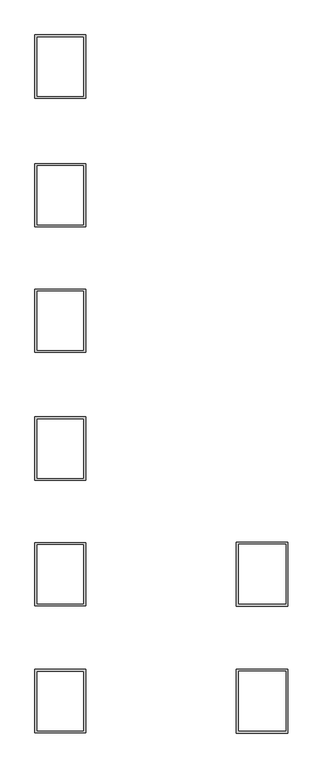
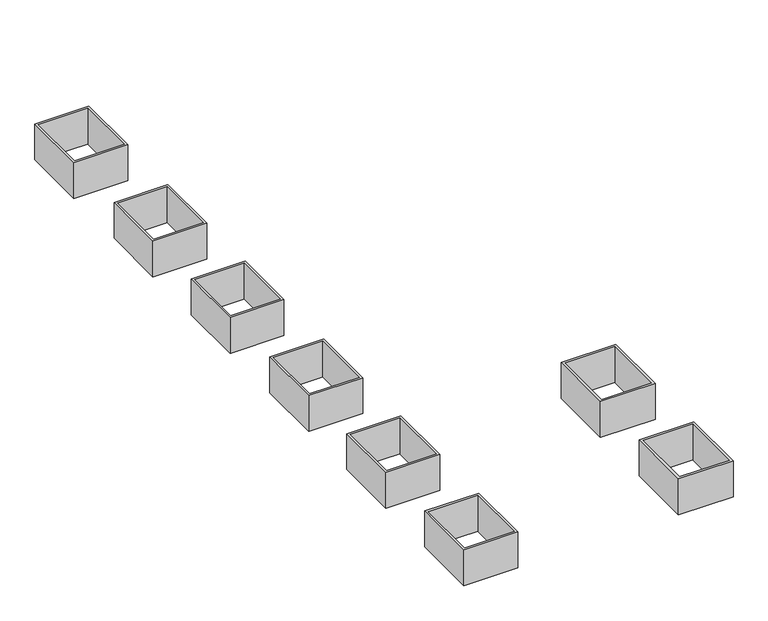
"""IFC4 building model written with IfcOpenShell, lengths in millimetres: proxy geometry, Modèles génériques 2 : Modèles génériques 2."""

from ifc_helpers import new_model, si_unit, origin, place, context, project, spatial, faceted_brep, source, transform, mapped, element, save


def generic_models_4b47ab79(model_context):
    return source(origin(), model_context, "Body", "Brep", [
        faceted_brep([(-32669.0462334, 1622.177026, 3953.3082742), (-32669.0462334, 3122.177026, 3953.3082742), (-33869.0462334, 3122.177026, 3953.3082742), (-33869.0462334, 1622.177026, 3953.3082742), (-32719.0462334, 1672.177026, 3953.3082742), (-33819.0462334, 1672.177026, 3953.3082742), (-33819.0462334, 3072.177026, 3953.3082742), (-32719.0462334, 3072.177026, 3953.3082742), (-32669.0462334, 1622.177026, 3110.0), (-33869.0462334, 1622.177026, 3110.0), (-33869.0462334, 3122.177026, 3110.0), (-32669.0462334, 3122.177026, 3110.0), (-32719.0462334, 1672.177026, 3110.0), (-32719.0462334, 3072.177026, 3110.0), (-33819.0462334, 3072.177026, 3110.0), (-33819.0462334, 1672.177026, 3110.0), (-32669.0462334, 1622.177026, 3150.0), (-32669.0462334, 3122.177026, 3150.0), (-33869.0462334, 3122.177026, 3150.0), (-33869.0462334, 1622.177026, 3150.0)], [[[0, 1, 2, 3], [4, 5, 6, 7]], [[8, 9, 10, 11], [12, 13, 14, 15]], [[5, 4, 12, 15]], [[6, 5, 15, 14]], [[7, 6, 14, 13]], [[4, 7, 13, 12]], [[1, 0, 16, 8, 11, 17]], [[2, 1, 17, 11, 10, 18]], [[3, 2, 18, 10, 9, 19]], [[0, 3, 19, 9, 8, 16]]]),
        faceted_brep([(-32669.0462334, -1347.3571147, 3953.3082742), (-32669.0462334, 152.6428853, 3953.3082742), (-33869.0462334, 152.6428853, 3953.3082742), (-33869.0462334, -1347.3571147, 3953.3082742), (-32719.0462334, -1297.3571147, 3953.3082742), (-33819.0462334, -1297.3571147, 3953.3082742), (-33819.0462334, 102.6428853, 3953.3082742), (-32719.0462334, 102.6428853, 3953.3082742), (-32669.0462334, -1347.3571147, 3110.0), (-33869.0462334, -1347.3571147, 3110.0), (-33869.0462334, 152.6428853, 3110.0), (-32669.0462334, 152.6428853, 3110.0), (-32719.0462334, -1297.3571147, 3110.0), (-32719.0462334, 102.6428853, 3110.0), (-33819.0462334, 102.6428853, 3110.0), (-33819.0462334, -1297.3571147, 3110.0), (-32669.0462334, -1347.3571147, 3150.0), (-32669.0462334, 152.6428853, 3150.0), (-33869.0462334, 152.6428853, 3150.0), (-33869.0462334, -1347.3571147, 3150.0)], [[[0, 1, 2, 3], [4, 5, 6, 7]], [[8, 9, 10, 11], [12, 13, 14, 15]], [[5, 4, 12, 15]], [[6, 5, 15, 14]], [[7, 6, 14, 13]], [[4, 7, 13, 12]], [[1, 0, 16, 8, 11, 17]], [[2, 1, 17, 11, 10, 18]], [[3, 2, 18, 10, 9, 19]], [[0, 3, 19, 9, 8, 16]]]),
        faceted_brep([(-32669.0462334, -4376.8912553, 3953.3082742), (-32669.0462334, -2876.8912553, 3953.3082742), (-33869.0462334, -2876.8912553, 3953.3082742), (-33869.0462334, -4376.8912553, 3953.3082742), (-32719.0462334, -4326.8912553, 3953.3082742), (-33819.0462334, -4326.8912553, 3953.3082742), (-33819.0462334, -2926.8912553, 3953.3082742), (-32719.0462334, -2926.8912553, 3953.3082742), (-32669.0462334, -4376.8912553, 3110.0), (-33869.0462334, -4376.8912553, 3110.0), (-33869.0462334, -2876.8912553, 3110.0), (-32669.0462334, -2876.8912553, 3110.0), (-32719.0462334, -4326.8912553, 3110.0), (-32719.0462334, -2926.8912553, 3110.0), (-33819.0462334, -2926.8912553, 3110.0), (-33819.0462334, -4326.8912553, 3110.0)], [[[0, 1, 2, 3], [4, 5, 6, 7]], [[8, 9, 10, 11], [12, 13, 14, 15]], [[5, 4, 12, 15]], [[6, 5, 15, 14]], [[7, 6, 14, 13]], [[4, 7, 13, 12]], [[1, 0, 8, 11]], [[2, 1, 11, 10]], [[3, 2, 10, 9]], [[0, 3, 9, 8]]]),
        faceted_brep([(-32669.0462334, -7352.822974, 3953.3082742), (-32669.0462334, -5852.822974, 3953.3082742), (-33869.0462334, -5852.822974, 3953.3082742), (-33869.0462334, -7352.822974, 3953.3082742), (-32719.0462334, -7302.822974, 3953.3082742), (-33819.0462334, -7302.822974, 3953.3082742), (-33819.0462334, -5902.822974, 3953.3082742), (-32719.0462334, -5902.822974, 3953.3082742), (-32669.0462334, -7352.822974, 3110.0), (-33869.0462334, -7352.822974, 3110.0), (-33869.0462334, -5852.822974, 3110.0), (-32669.0462334, -5852.822974, 3110.0), (-32719.0462334, -7302.822974, 3110.0), (-32719.0462334, -5902.822974, 3110.0), (-33819.0462334, -5902.822974, 3110.0), (-33819.0462334, -7302.822974, 3110.0)], [[[0, 1, 2, 3], [4, 5, 6, 7]], [[8, 9, 10, 11], [12, 13, 14, 15]], [[5, 4, 12, 15]], [[6, 5, 15, 14]], [[7, 6, 14, 13]], [[4, 7, 13, 12]], [[1, 0, 8, 11]], [[2, 1, 11, 10]], [[3, 2, 10, 9]], [[0, 3, 9, 8]]]),
        faceted_brep([(-32669.0462334, -10357.822974, 3953.3082742), (-32669.0462334, -8857.822974, 3953.3082742), (-33869.0462334, -8857.822974, 3953.3082742), (-33869.0462334, -10357.822974, 3953.3082742), (-32719.0462334, -10307.822974, 3953.3082742), (-33819.0462334, -10307.822974, 3953.3082742), (-33819.0462334, -8907.822974, 3953.3082742), (-32719.0462334, -8907.822974, 3953.3082742), (-32669.0462334, -10357.822974, 3110.0), (-33869.0462334, -10357.822974, 3110.0), (-33869.0462334, -8857.822974, 3110.0), (-32669.0462334, -8857.822974, 3110.0), (-32719.0462334, -10307.822974, 3110.0), (-32719.0462334, -8907.822974, 3110.0), (-33819.0462334, -8907.822974, 3110.0), (-33819.0462334, -10307.822974, 3110.0)], [[[0, 1, 2, 3], [4, 5, 6, 7]], [[8, 9, 10, 11], [12, 13, 14, 15]], [[5, 4, 12, 15]], [[6, 5, 15, 14]], [[7, 6, 14, 13]], [[4, 7, 13, 12]], [[1, 0, 8, 11]], [[2, 1, 11, 10]], [[3, 2, 10, 9]], [[0, 3, 9, 8]]]),
        faceted_brep([(-32669.0462334, 4671.7111666, 3953.3082742), (-32669.0462334, 6171.7111666, 3953.3082742), (-33869.0462334, 6171.7111666, 3953.3082742), (-33869.0462334, 4671.7111666, 3953.3082742), (-32719.0462334, 4721.7111666, 3953.3082742), (-33819.0462334, 4721.7111666, 3953.3082742), (-33819.0462334, 6121.7111666, 3953.3082742), (-32719.0462334, 6121.7111666, 3953.3082742), (-32669.0462334, 4671.7111666, 3110.0), (-33869.0462334, 4671.7111666, 3110.0), (-33869.0462334, 6171.7111666, 3110.0), (-32669.0462334, 6171.7111666, 3110.0), (-32719.0462334, 4721.7111666, 3110.0), (-32719.0462334, 6121.7111666, 3110.0), (-33819.0462334, 6121.7111666, 3110.0), (-33819.0462334, 4721.7111666, 3110.0), (-32669.0462334, 4671.7111666, 3150.0), (-32669.0462334, 6171.7111666, 3150.0), (-33869.0462334, 6171.7111666, 3150.0), (-33869.0462334, 4671.7111666, 3150.0)], [[[0, 1, 2, 3], [4, 5, 6, 7]], [[8, 9, 10, 11], [12, 13, 14, 15]], [[5, 4, 12, 15]], [[6, 5, 15, 14]], [[7, 6, 14, 13]], [[4, 7, 13, 12]], [[1, 0, 16, 8, 11, 17]], [[2, 1, 17, 11, 10, 18]], [[3, 2, 18, 10, 9, 19]], [[0, 3, 19, 9, 8, 16]]]),
        faceted_brep([(-27883.4246741, -7360.322974, 3953.3082742), (-27883.4246741, -5845.322974, 3953.3082742), (-29098.4246741, -5845.322974, 3953.3082742), (-29098.4246741, -7360.322974, 3953.3082742), (-27933.4246741, -7302.822974, 3953.3082742), (-29040.9246741, -7302.822974, 3953.3082742), (-29040.9246741, -5895.322974, 3953.3082742), (-27933.4246741, -5895.322974, 3953.3082742), (-27883.4246741, -7360.322974, 3110.0), (-29098.4246741, -7360.322974, 3110.0), (-29098.4246741, -5845.322974, 3110.0), (-27883.4246741, -5845.322974, 3110.0), (-27933.4246741, -7302.822974, 3110.0), (-27933.4246741, -5895.322974, 3110.0), (-29040.9246741, -5895.322974, 3110.0), (-29040.9246741, -7302.822974, 3110.0)], [[[0, 1, 2, 3], [4, 5, 6, 7]], [[8, 9, 10, 11], [12, 13, 14, 15]], [[5, 4, 12, 15]], [[6, 5, 15, 14]], [[7, 6, 14, 13]], [[4, 7, 13, 12]], [[1, 0, 8, 11]], [[2, 1, 11, 10]], [[3, 2, 10, 9]], [[0, 3, 9, 8]]]),
        faceted_brep([(-27883.4246741, -10365.322974, 3953.3082742), (-27883.4246741, -8850.322974, 3953.3082742), (-29098.4246741, -8850.322974, 3953.3082742), (-29098.4246741, -10365.322974, 3953.3082742), (-27933.4246741, -10307.822974, 3953.3082742), (-29040.9246741, -10307.822974, 3953.3082742), (-29040.9246741, -8900.322974, 3953.3082742), (-27933.4246741, -8900.322974, 3953.3082742), (-27883.4246741, -10365.322974, 3110.0), (-29098.4246741, -10365.322974, 3110.0), (-29098.4246741, -8850.322974, 3110.0), (-27883.4246741, -8850.322974, 3110.0), (-27933.4246741, -10307.822974, 3110.0), (-27933.4246741, -8900.322974, 3110.0), (-29040.9246741, -8900.322974, 3110.0), (-29040.9246741, -10307.822974, 3110.0)], [[[0, 1, 2, 3], [4, 5, 6, 7]], [[8, 9, 10, 11], [12, 13, 14, 15]], [[5, 4, 12, 15]], [[6, 5, 15, 14]], [[7, 6, 14, 13]], [[4, 7, 13, 12]], [[1, 0, 8, 11]], [[2, 1, 11, 10]], [[3, 2, 10, 9]], [[0, 3, 9, 8]]]),
    ])


if __name__ == "__main__":
    model = new_model("IFC4")
    model_context = context("Model", 3, world=origin())
    ifc_project = project(units=[si_unit("LENGTHUNIT", "METRE", prefix="MILLI")], contexts=[model_context])
    site = spatial("IfcSite", under=ifc_project)
    building = spatial("IfcBuilding", under=site)
    placement = place(None, origin())
    generic_models_shape = generic_models_4b47ab79(model_context)
    element("IfcBuildingElementProxy", 1, Name="Modèles génériques 2 : Modèles génériques 2", ObjectType="Modèles génériques 2 : Modèles génériques 2", at=placement, inside=building, context=model_context, shape_type="MappedRepresentation", body=[
        mapped(generic_models_shape, transform((0.0, 0.0, 0.0), x_axis=(1.0, 0.0, 0.0), y_axis=(0.0, 1.0, 0.0), z_axis=(0.0, 0.0, 1.0))),
    ])
    save(model, "model.ifc")
